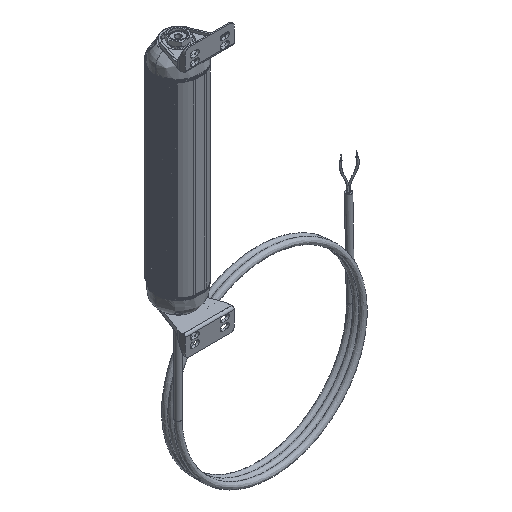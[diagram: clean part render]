
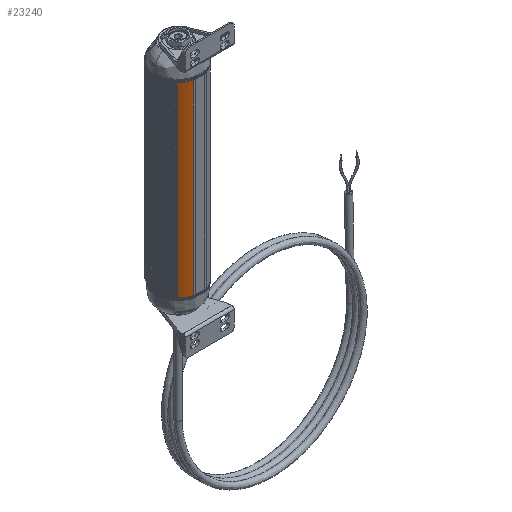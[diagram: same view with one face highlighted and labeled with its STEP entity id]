
A CAD part, isometric view. The second image highlights one B-rep face of the part: STEP entity #23240.
In plain terms, the highlighted cylindrical face has radius 30 mm (diameter 60 mm), a partial arc.
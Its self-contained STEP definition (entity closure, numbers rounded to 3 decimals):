
#1413 = EDGE_CURVE ( 'NONE', #20930, #4457, #27914, .T. ) ;
#2134 = CYLINDRICAL_SURFACE ( 'NONE', #38896, 30. ) ;
#4457 = VERTEX_POINT ( 'NONE', #5542 ) ;
#4533 = CIRCLE ( 'NONE', #14795, 30. ) ;
#5542 = CARTESIAN_POINT ( 'NONE',  ( -21.932, -20.469, 645. ) ) ;
#5876 = DIRECTION ( 'NONE',  ( 0., 0., 1. ) ) ;
#8315 = DIRECTION ( 'NONE',  ( 0., 0., -1. ) ) ;
#8324 = EDGE_CURVE ( 'NONE', #14961, #36880, #31261, .T. ) ;
#9280 = CARTESIAN_POINT ( 'NONE',  ( 0., 0., -295. ) ) ;
#14200 = ORIENTED_EDGE ( 'NONE', *, *, #34015, .T. ) ;
#14795 = AXIS2_PLACEMENT_3D ( 'NONE', #48502, #48741, #22351 ) ;
#14961 = VERTEX_POINT ( 'NONE', #43490 ) ;
#16453 = AXIS2_PLACEMENT_3D ( 'NONE', #17228, #5876, #21178 ) ;
#17228 = CARTESIAN_POINT ( 'NONE',  ( 0., 0., 895. ) ) ;
#20930 = VERTEX_POINT ( 'NONE', #37133 ) ;
#21178 = DIRECTION ( 'NONE',  ( 1., 0., 0. ) ) ;
#22351 = DIRECTION ( 'NONE',  ( 1., 0., 0. ) ) ;
#23240 = ADVANCED_FACE ( 'NONE', ( #43073 ), #2134, .T. ) ;
#24347 = CIRCLE ( 'NONE', #16453, 30. ) ;
#24858 = EDGE_LOOP ( 'NONE', ( #14200, #36080, #41973, #41725 ) ) ;
#27537 = DIRECTION ( 'NONE',  ( 1., 0., 0. ) ) ;
#27914 = LINE ( 'NONE', #35077, #28132 ) ;
#28132 = VECTOR ( 'NONE', #47383, 1000. ) ;
#31261 = LINE ( 'NONE', #46287, #33802 ) ;
#33802 = VECTOR ( 'NONE', #8315, 1000. ) ;
#34015 = EDGE_CURVE ( 'NONE', #4457, #36880, #4533, .T. ) ;
#35077 = CARTESIAN_POINT ( 'NONE',  ( -21.932, -20.469, -295. ) ) ;
#36080 = ORIENTED_EDGE ( 'NONE', *, *, #8324, .F. ) ;
#36880 = VERTEX_POINT ( 'NONE', #37491 ) ;
#37133 = CARTESIAN_POINT ( 'NONE',  ( -21.932, -20.469, 895. ) ) ;
#37491 = CARTESIAN_POINT ( 'NONE',  ( -8.942, -28.636, 645. ) ) ;
#38896 = AXIS2_PLACEMENT_3D ( 'NONE', #9280, #42824, #27537 ) ;
#41725 = ORIENTED_EDGE ( 'NONE', *, *, #1413, .T. ) ;
#41973 = ORIENTED_EDGE ( 'NONE', *, *, #43607, .F. ) ;
#42824 = DIRECTION ( 'NONE',  ( 0., 0., 1. ) ) ;
#43073 = FACE_OUTER_BOUND ( 'NONE', #24858, .T. ) ;
#43490 = CARTESIAN_POINT ( 'NONE',  ( -8.942, -28.636, 895. ) ) ;
#43607 = EDGE_CURVE ( 'NONE', #20930, #14961, #24347, .T. ) ;
#46287 = CARTESIAN_POINT ( 'NONE',  ( -8.942, -28.636, 1064.124 ) ) ;
#47383 = DIRECTION ( 'NONE',  ( 0., 0., -1. ) ) ;
#48502 = CARTESIAN_POINT ( 'NONE',  ( 0., 0., 645. ) ) ;
#48741 = DIRECTION ( 'NONE',  ( 0., 0., 1. ) ) ;
